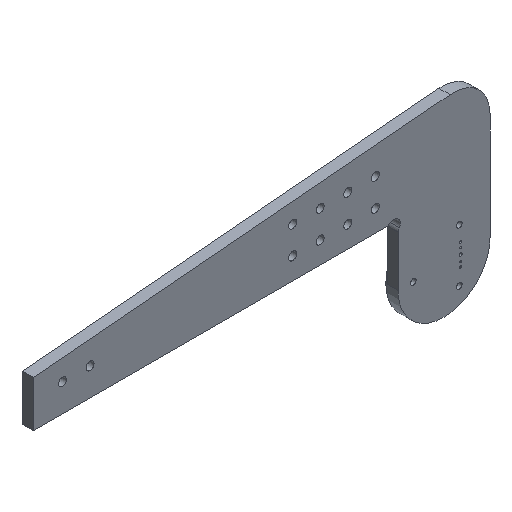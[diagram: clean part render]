
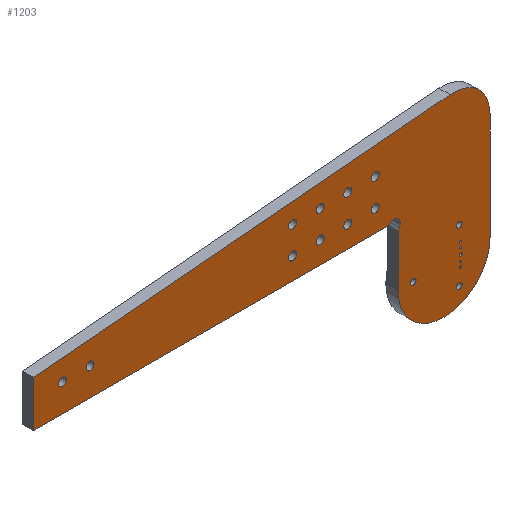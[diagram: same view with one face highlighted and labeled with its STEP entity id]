
A CAD part, isometric view. The second image highlights one B-rep face of the part: STEP entity #1203.
In plain terms, the highlighted planar face has unit normal (0, -1, 0).
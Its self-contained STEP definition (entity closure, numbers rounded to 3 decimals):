
#45=LINE('',#2052,#77);
#46=LINE('',#2056,#78);
#47=LINE('',#2060,#79);
#48=LINE('',#2062,#80);
#49=LINE('',#2063,#81);
#77=VECTOR('',#1707,82.137);
#78=VECTOR('',#1710,174.744);
#79=VECTOR('',#1713,682.869);
#80=VECTOR('',#1714,75.);
#81=VECTOR('',#1715,577.637);
#102=PLANE('',#1366);
#147=FACE_BOUND('',#392,.T.);
#148=FACE_BOUND('',#393,.T.);
#149=FACE_BOUND('',#394,.T.);
#150=FACE_BOUND('',#395,.T.);
#151=FACE_BOUND('',#396,.T.);
#152=FACE_BOUND('',#397,.T.);
#153=FACE_BOUND('',#398,.T.);
#154=FACE_BOUND('',#399,.T.);
#155=FACE_BOUND('',#400,.T.);
#156=FACE_BOUND('',#401,.T.);
#157=FACE_BOUND('',#402,.T.);
#158=FACE_BOUND('',#403,.T.);
#159=FACE_BOUND('',#404,.T.);
#160=FACE_BOUND('',#405,.T.);
#161=FACE_BOUND('',#406,.T.);
#162=FACE_BOUND('',#407,.T.);
#163=FACE_BOUND('',#408,.T.);
#164=FACE_BOUND('',#409,.T.);
#273=FACE_OUTER_BOUND('',#391,.T.);
#391=EDGE_LOOP('',(#943,#944,#945,#946,#947,#948,#949,#950,#951,#952));
#392=EDGE_LOOP('',(#953));
#393=EDGE_LOOP('',(#954));
#394=EDGE_LOOP('',(#955));
#395=EDGE_LOOP('',(#956));
#396=EDGE_LOOP('',(#957));
#397=EDGE_LOOP('',(#958));
#398=EDGE_LOOP('',(#959));
#399=EDGE_LOOP('',(#960));
#400=EDGE_LOOP('',(#961));
#401=EDGE_LOOP('',(#962));
#402=EDGE_LOOP('',(#963));
#403=EDGE_LOOP('',(#964));
#404=EDGE_LOOP('',(#965));
#405=EDGE_LOOP('',(#966));
#406=EDGE_LOOP('',(#967));
#407=EDGE_LOOP('',(#968));
#408=EDGE_LOOP('',(#969));
#409=EDGE_LOOP('',(#970));
#477=CIRCLE('',#1228,1.621);
#479=CIRCLE('',#1231,1.621);
#481=CIRCLE('',#1234,1.5);
#483=CIRCLE('',#1237,1.5);
#485=CIRCLE('',#1240,2.5);
#493=CIRCLE('',#1256,6.5);
#495=CIRCLE('',#1259,6.5);
#497=CIRCLE('',#1262,6.5);
#499=CIRCLE('',#1265,6.5);
#501=CIRCLE('',#1268,6.5);
#503=CIRCLE('',#1271,6.5);
#505=CIRCLE('',#1274,6.5);
#507=CIRCLE('',#1277,6.5);
#509=CIRCLE('',#1280,6.5);
#511=CIRCLE('',#1283,6.5);
#551=CIRCLE('',#1362,10.);
#553=CIRCLE('',#1365,10.);
#554=CIRCLE('',#1367,10.);
#555=CIRCLE('',#1368,75.);
#556=CIRCLE('',#1369,60.);
#557=CIRCLE('',#1370,4.5);
#558=CIRCLE('',#1371,4.5);
#559=CIRCLE('',#1372,4.5);
#578=VERTEX_POINT('',#1816);
#580=VERTEX_POINT('',#1821);
#582=VERTEX_POINT('',#1826);
#584=VERTEX_POINT('',#1831);
#586=VERTEX_POINT('',#1836);
#598=VERTEX_POINT('',#1872);
#600=VERTEX_POINT('',#1877);
#602=VERTEX_POINT('',#1882);
#604=VERTEX_POINT('',#1887);
#606=VERTEX_POINT('',#1892);
#608=VERTEX_POINT('',#1897);
#610=VERTEX_POINT('',#1902);
#612=VERTEX_POINT('',#1907);
#614=VERTEX_POINT('',#1912);
#616=VERTEX_POINT('',#1917);
#657=VERTEX_POINT('',#2037);
#658=VERTEX_POINT('',#2039);
#660=VERTEX_POINT('',#2045);
#661=VERTEX_POINT('',#2049);
#662=VERTEX_POINT('',#2051);
#663=VERTEX_POINT('',#2053);
#664=VERTEX_POINT('',#2055);
#665=VERTEX_POINT('',#2057);
#666=VERTEX_POINT('',#2059);
#667=VERTEX_POINT('',#2061);
#668=VERTEX_POINT('',#2064);
#669=VERTEX_POINT('',#2066);
#670=VERTEX_POINT('',#2068);
#693=EDGE_CURVE('',#578,#578,#477,.T.);
#695=EDGE_CURVE('',#580,#580,#479,.T.);
#697=EDGE_CURVE('',#582,#582,#481,.T.);
#699=EDGE_CURVE('',#584,#584,#483,.T.);
#701=EDGE_CURVE('',#586,#586,#485,.T.);
#717=EDGE_CURVE('',#598,#598,#493,.T.);
#719=EDGE_CURVE('',#600,#600,#495,.T.);
#721=EDGE_CURVE('',#602,#602,#497,.T.);
#723=EDGE_CURVE('',#604,#604,#499,.T.);
#725=EDGE_CURVE('',#606,#606,#501,.T.);
#727=EDGE_CURVE('',#608,#608,#503,.T.);
#729=EDGE_CURVE('',#610,#610,#505,.T.);
#731=EDGE_CURVE('',#612,#612,#507,.T.);
#733=EDGE_CURVE('',#614,#614,#509,.T.);
#735=EDGE_CURVE('',#616,#616,#511,.T.);
#776=EDGE_CURVE('',#658,#657,#551,.T.);
#780=EDGE_CURVE('',#660,#657,#553,.T.);
#781=EDGE_CURVE('',#660,#661,#554,.T.);
#782=EDGE_CURVE('',#662,#661,#45,.T.);
#783=EDGE_CURVE('',#663,#662,#555,.T.);
#784=EDGE_CURVE('',#664,#663,#46,.T.);
#785=EDGE_CURVE('',#664,#665,#556,.T.);
#786=EDGE_CURVE('',#666,#665,#47,.T.);
#787=EDGE_CURVE('',#667,#666,#48,.T.);
#788=EDGE_CURVE('',#658,#667,#49,.T.);
#789=EDGE_CURVE('',#668,#668,#557,.T.);
#790=EDGE_CURVE('',#669,#669,#558,.T.);
#791=EDGE_CURVE('',#670,#670,#559,.T.);
#943=ORIENTED_EDGE('',*,*,#776,.T.);
#944=ORIENTED_EDGE('',*,*,#780,.F.);
#945=ORIENTED_EDGE('',*,*,#781,.T.);
#946=ORIENTED_EDGE('',*,*,#782,.F.);
#947=ORIENTED_EDGE('',*,*,#783,.F.);
#948=ORIENTED_EDGE('',*,*,#784,.F.);
#949=ORIENTED_EDGE('',*,*,#785,.T.);
#950=ORIENTED_EDGE('',*,*,#786,.F.);
#951=ORIENTED_EDGE('',*,*,#787,.F.);
#952=ORIENTED_EDGE('',*,*,#788,.F.);
#953=ORIENTED_EDGE('',*,*,#693,.T.);
#954=ORIENTED_EDGE('',*,*,#695,.T.);
#955=ORIENTED_EDGE('',*,*,#697,.T.);
#956=ORIENTED_EDGE('',*,*,#699,.T.);
#957=ORIENTED_EDGE('',*,*,#701,.T.);
#958=ORIENTED_EDGE('',*,*,#717,.F.);
#959=ORIENTED_EDGE('',*,*,#719,.F.);
#960=ORIENTED_EDGE('',*,*,#721,.F.);
#961=ORIENTED_EDGE('',*,*,#723,.F.);
#962=ORIENTED_EDGE('',*,*,#725,.F.);
#963=ORIENTED_EDGE('',*,*,#727,.F.);
#964=ORIENTED_EDGE('',*,*,#729,.F.);
#965=ORIENTED_EDGE('',*,*,#731,.F.);
#966=ORIENTED_EDGE('',*,*,#733,.F.);
#967=ORIENTED_EDGE('',*,*,#735,.F.);
#968=ORIENTED_EDGE('',*,*,#789,.F.);
#969=ORIENTED_EDGE('',*,*,#790,.F.);
#970=ORIENTED_EDGE('',*,*,#791,.F.);
#1203=ADVANCED_FACE('',(#273,#147,#148,#149,#150,#151,#152,#153,#154,#155,
#156,#157,#158,#159,#160,#161,#162,#163,#164),#102,.T.);
#1228=AXIS2_PLACEMENT_3D('',#1817,#1416,#1417);
#1231=AXIS2_PLACEMENT_3D('',#1822,#1422,#1423);
#1234=AXIS2_PLACEMENT_3D('',#1827,#1428,#1429);
#1237=AXIS2_PLACEMENT_3D('',#1832,#1434,#1435);
#1240=AXIS2_PLACEMENT_3D('',#1837,#1440,#1441);
#1256=AXIS2_PLACEMENT_3D('',#1873,#1480,#1481);
#1259=AXIS2_PLACEMENT_3D('',#1878,#1486,#1487);
#1262=AXIS2_PLACEMENT_3D('',#1883,#1492,#1493);
#1265=AXIS2_PLACEMENT_3D('',#1888,#1498,#1499);
#1268=AXIS2_PLACEMENT_3D('',#1893,#1504,#1505);
#1271=AXIS2_PLACEMENT_3D('',#1898,#1510,#1511);
#1274=AXIS2_PLACEMENT_3D('',#1903,#1516,#1517);
#1277=AXIS2_PLACEMENT_3D('',#1908,#1522,#1523);
#1280=AXIS2_PLACEMENT_3D('',#1913,#1528,#1529);
#1283=AXIS2_PLACEMENT_3D('',#1918,#1534,#1535);
#1362=AXIS2_PLACEMENT_3D('',#2040,#1693,#1694);
#1365=AXIS2_PLACEMENT_3D('',#2047,#1701,#1702);
#1366=AXIS2_PLACEMENT_3D('',#2048,#1703,#1704);
#1367=AXIS2_PLACEMENT_3D('',#2050,#1705,#1706);
#1368=AXIS2_PLACEMENT_3D('',#2054,#1708,#1709);
#1369=AXIS2_PLACEMENT_3D('',#2058,#1711,#1712);
#1370=AXIS2_PLACEMENT_3D('',#2065,#1716,#1717);
#1371=AXIS2_PLACEMENT_3D('',#2067,#1718,#1719);
#1372=AXIS2_PLACEMENT_3D('',#2069,#1720,#1721);
#1416=DIRECTION('center_axis',(0.,1.,0.));
#1417=DIRECTION('ref_axis',(1.,0.,0.));
#1422=DIRECTION('center_axis',(0.,1.,0.));
#1423=DIRECTION('ref_axis',(1.,0.,0.));
#1428=DIRECTION('center_axis',(0.,1.,0.));
#1429=DIRECTION('ref_axis',(1.,0.,0.));
#1434=DIRECTION('center_axis',(0.,1.,0.));
#1435=DIRECTION('ref_axis',(1.,0.,0.));
#1440=DIRECTION('center_axis',(0.,1.,0.));
#1441=DIRECTION('ref_axis',(1.,0.,0.));
#1480=DIRECTION('center_axis',(0.,-1.,0.));
#1481=DIRECTION('ref_axis',(1.,0.,0.));
#1486=DIRECTION('center_axis',(0.,-1.,0.));
#1487=DIRECTION('ref_axis',(1.,0.,0.));
#1492=DIRECTION('center_axis',(0.,-1.,0.));
#1493=DIRECTION('ref_axis',(1.,0.,0.));
#1498=DIRECTION('center_axis',(0.,-1.,0.));
#1499=DIRECTION('ref_axis',(1.,0.,0.));
#1504=DIRECTION('center_axis',(0.,-1.,0.));
#1505=DIRECTION('ref_axis',(1.,0.,0.));
#1510=DIRECTION('center_axis',(0.,-1.,0.));
#1511=DIRECTION('ref_axis',(1.,0.,0.));
#1516=DIRECTION('center_axis',(0.,-1.,0.));
#1517=DIRECTION('ref_axis',(1.,0.,0.));
#1522=DIRECTION('center_axis',(0.,-1.,0.));
#1523=DIRECTION('ref_axis',(1.,0.,0.));
#1528=DIRECTION('center_axis',(0.,-1.,0.));
#1529=DIRECTION('ref_axis',(1.,0.,0.));
#1534=DIRECTION('center_axis',(0.,-1.,0.));
#1535=DIRECTION('ref_axis',(1.,0.,0.));
#1693=DIRECTION('center_axis',(0.,-1.,0.));
#1694=DIRECTION('ref_axis',(0.301,0.,-0.953));
#1701=DIRECTION('center_axis',(0.,-1.,0.));
#1702=DIRECTION('ref_axis',(-1.,0.,0.));
#1703=DIRECTION('center_axis',(0.,-1.,0.));
#1704=DIRECTION('ref_axis',(0.,0.,-1.));
#1705=DIRECTION('center_axis',(0.,-1.,0.));
#1706=DIRECTION('ref_axis',(-0.953,0.,0.301));
#1707=DIRECTION('',(0.,0.,1.));
#1708=DIRECTION('center_axis',(0.,1.,0.));
#1709=DIRECTION('ref_axis',(1.,0.,0.));
#1710=DIRECTION('',(0.,0.,-1.));
#1711=DIRECTION('center_axis',(0.,-1.,0.));
#1712=DIRECTION('ref_axis',(0.676,0.,0.737));
#1713=DIRECTION('',(0.996,0.,0.087));
#1714=DIRECTION('',(0.,0.,1.));
#1715=DIRECTION('',(-1.,0.,0.));
#1716=DIRECTION('center_axis',(0.,-1.,0.));
#1717=DIRECTION('ref_axis',(-0.5,0.,0.866));
#1718=DIRECTION('center_axis',(0.,-1.,0.));
#1719=DIRECTION('ref_axis',(-0.5,0.,-0.866));
#1720=DIRECTION('center_axis',(0.,-1.,0.));
#1721=DIRECTION('ref_axis',(1.,0.,0.));
#1816=CARTESIAN_POINT('',(28.621,-20.,-17.5));
#1817=CARTESIAN_POINT('Origin',(27.,-20.,-17.5));
#1821=CARTESIAN_POINT('',(28.621,-20.,17.5));
#1822=CARTESIAN_POINT('Origin',(27.,-20.,17.5));
#1826=CARTESIAN_POINT('',(28.5,-20.,-10.));
#1827=CARTESIAN_POINT('Origin',(27.,-20.,-10.));
#1831=CARTESIAN_POINT('',(28.5,-20.,10.));
#1832=CARTESIAN_POINT('Origin',(27.,-20.,10.));
#1836=CARTESIAN_POINT('',(29.5,-20.,0.));
#1837=CARTESIAN_POINT('Origin',(27.,-20.,0.));
#1872=CARTESIAN_POINT('',(-616.,-20.,145.));
#1873=CARTESIAN_POINT('Origin',(-622.5,-20.,145.));
#1877=CARTESIAN_POINT('',(-571.,-20.,145.));
#1878=CARTESIAN_POINT('Origin',(-577.5,-20.,145.));
#1882=CARTESIAN_POINT('',(-105.5,-20.,135.));
#1883=CARTESIAN_POINT('Origin',(-112.,-20.,135.));
#1887=CARTESIAN_POINT('',(-240.5,-20.,135.));
#1888=CARTESIAN_POINT('Origin',(-247.,-20.,135.));
#1892=CARTESIAN_POINT('',(-150.5,-20.,135.));
#1893=CARTESIAN_POINT('Origin',(-157.,-20.,135.));
#1897=CARTESIAN_POINT('',(-195.5,-20.,135.));
#1898=CARTESIAN_POINT('Origin',(-202.,-20.,135.));
#1902=CARTESIAN_POINT('',(-195.5,-20.,180.));
#1903=CARTESIAN_POINT('Origin',(-202.,-20.,180.));
#1907=CARTESIAN_POINT('',(-150.5,-20.,180.));
#1908=CARTESIAN_POINT('Origin',(-157.,-20.,180.));
#1912=CARTESIAN_POINT('',(-240.5,-20.,180.));
#1913=CARTESIAN_POINT('Origin',(-247.,-20.,180.));
#1917=CARTESIAN_POINT('',(-105.5,-20.,180.));
#1918=CARTESIAN_POINT('Origin',(-112.,-20.,180.));
#2037=CARTESIAN_POINT('',(-87.113,-20.,101.818));
#2039=CARTESIAN_POINT('',(-92.863,-20.,100.));
#2040=CARTESIAN_POINT('Origin',(-92.863,-20.,110.));
#2045=CARTESIAN_POINT('',(-73.182,-20.,87.887));
#2047=CARTESIAN_POINT('Origin',(-81.364,-20.,93.636));
#2048=CARTESIAN_POINT('Origin',(-250.319,-20.,129.479));
#2049=CARTESIAN_POINT('',(-75.,-20.,82.137));
#2050=CARTESIAN_POINT('Origin',(-65.,-20.,82.137));
#2051=CARTESIAN_POINT('',(-75.,-20.,0.));
#2052=CARTESIAN_POINT('',(-75.,-20.,0.));
#2053=CARTESIAN_POINT('',(75.,-20.,0.));
#2054=CARTESIAN_POINT('Origin',(0.,-20.,0.));
#2055=CARTESIAN_POINT('',(75.,-20.,174.744));
#2056=CARTESIAN_POINT('',(75.,-20.,240.223));
#2057=CARTESIAN_POINT('',(9.771,-20.,234.516));
#2058=CARTESIAN_POINT('Origin',(15.,-20.,174.744));
#2059=CARTESIAN_POINT('',(-670.5,-20.,175.));
#2060=CARTESIAN_POINT('',(-670.5,-20.,175.));
#2061=CARTESIAN_POINT('',(-670.5,-20.,100.));
#2062=CARTESIAN_POINT('',(-670.5,-20.,100.));
#2063=CARTESIAN_POINT('',(-75.,-20.,100.));
#2064=CARTESIAN_POINT('',(22.75,-20.,-39.404));
#2065=CARTESIAN_POINT('Origin',(25.,-20.,-43.301));
#2066=CARTESIAN_POINT('',(22.75,-20.,39.404));
#2067=CARTESIAN_POINT('Origin',(25.,-20.,43.301));
#2068=CARTESIAN_POINT('',(-45.5,-20.,0.));
#2069=CARTESIAN_POINT('Origin',(-50.,-20.,0.));
